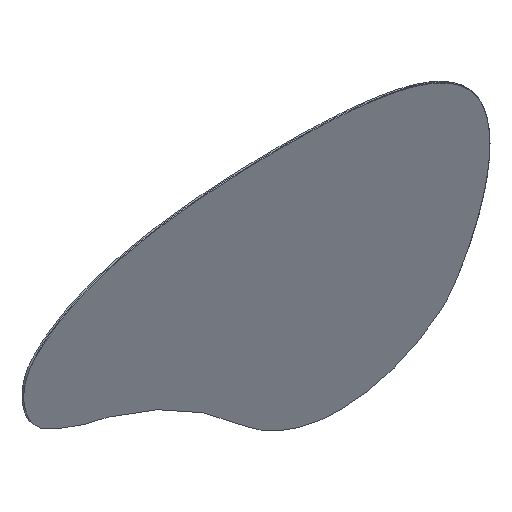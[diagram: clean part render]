
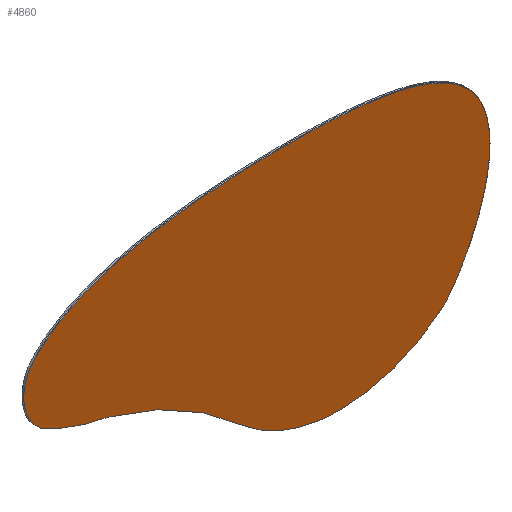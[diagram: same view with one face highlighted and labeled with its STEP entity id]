
A CAD part, isometric view. The second image highlights one B-rep face of the part: STEP entity #4860.
In plain terms, the highlighted planar face has unit normal (0, -1, 0).
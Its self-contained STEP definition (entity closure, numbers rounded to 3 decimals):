
#63=PLANE('',#5225);
#1103=ORIENTED_EDGE('',*,*,#2533,.T.);
#1104=ORIENTED_EDGE('',*,*,#2534,.T.);
#1105=ORIENTED_EDGE('',*,*,#2457,.F.);
#1106=ORIENTED_EDGE('',*,*,#2454,.F.);
#1107=ORIENTED_EDGE('',*,*,#2451,.F.);
#1108=ORIENTED_EDGE('',*,*,#2447,.F.);
#1109=ORIENTED_EDGE('',*,*,#2531,.F.);
#1110=ORIENTED_EDGE('',*,*,#2528,.F.);
#1111=ORIENTED_EDGE('',*,*,#2525,.F.);
#1112=ORIENTED_EDGE('',*,*,#2535,.T.);
#1113=ORIENTED_EDGE('',*,*,#2536,.T.);
#1114=ORIENTED_EDGE('',*,*,#2537,.T.);
#1115=ORIENTED_EDGE('',*,*,#2538,.T.);
#1116=ORIENTED_EDGE('',*,*,#2539,.T.);
#1117=ORIENTED_EDGE('',*,*,#2540,.T.);
#1118=ORIENTED_EDGE('',*,*,#2541,.T.);
#1119=ORIENTED_EDGE('',*,*,#2542,.T.);
#1120=ORIENTED_EDGE('',*,*,#2543,.T.);
#1121=ORIENTED_EDGE('',*,*,#2544,.T.);
#1122=ORIENTED_EDGE('',*,*,#2545,.T.);
#1123=ORIENTED_EDGE('',*,*,#2546,.T.);
#1124=ORIENTED_EDGE('',*,*,#2547,.T.);
#1125=ORIENTED_EDGE('',*,*,#2548,.T.);
#1126=ORIENTED_EDGE('',*,*,#2549,.T.);
#1127=ORIENTED_EDGE('',*,*,#2550,.T.);
#1128=ORIENTED_EDGE('',*,*,#2551,.T.);
#1129=ORIENTED_EDGE('',*,*,#2552,.T.);
#2447=EDGE_CURVE('',#3190,#3191,#3679,.T.);
#2451=EDGE_CURVE('',#3191,#3194,#3681,.T.);
#2454=EDGE_CURVE('',#3194,#3196,#3683,.T.);
#2457=EDGE_CURVE('',#3196,#3198,#3685,.T.);
#2525=EDGE_CURVE('',#3243,#3244,#3728,.T.);
#2528=EDGE_CURVE('',#3244,#3246,#3730,.T.);
#2531=EDGE_CURVE('',#3246,#3190,#3732,.T.);
#2533=EDGE_CURVE('',#3248,#3249,#3734,.F.);
#2534=EDGE_CURVE('',#3249,#3198,#3735,.F.);
#2535=EDGE_CURVE('',#3243,#3250,#3736,.F.);
#2536=EDGE_CURVE('',#3250,#3251,#3737,.F.);
#2537=EDGE_CURVE('',#3251,#3252,#3738,.F.);
#2538=EDGE_CURVE('',#3252,#3253,#3739,.F.);
#2539=EDGE_CURVE('',#3253,#3254,#3740,.F.);
#2540=EDGE_CURVE('',#3254,#3255,#3741,.F.);
#2541=EDGE_CURVE('',#3255,#3256,#3742,.F.);
#2542=EDGE_CURVE('',#3256,#3257,#3743,.F.);
#2543=EDGE_CURVE('',#3257,#3258,#3744,.F.);
#2544=EDGE_CURVE('',#3258,#3259,#3745,.F.);
#2545=EDGE_CURVE('',#3259,#3260,#3746,.F.);
#2546=EDGE_CURVE('',#3260,#3261,#3747,.F.);
#2547=EDGE_CURVE('',#3261,#3262,#3748,.F.);
#2548=EDGE_CURVE('',#3262,#3263,#3749,.F.);
#2549=EDGE_CURVE('',#3263,#3264,#3750,.F.);
#2550=EDGE_CURVE('',#3264,#3265,#3751,.F.);
#2551=EDGE_CURVE('',#3265,#3266,#3752,.F.);
#2552=EDGE_CURVE('',#3266,#3248,#3753,.F.);
#3190=VERTEX_POINT('',#7360);
#3191=VERTEX_POINT('',#7361);
#3194=VERTEX_POINT('',#7369);
#3196=VERTEX_POINT('',#7375);
#3198=VERTEX_POINT('',#7381);
#3243=VERTEX_POINT('',#7570);
#3244=VERTEX_POINT('',#7572);
#3246=VERTEX_POINT('',#7578);
#3248=VERTEX_POINT('',#7588);
#3249=VERTEX_POINT('',#7589);
#3250=VERTEX_POINT('',#7592);
#3251=VERTEX_POINT('',#7594);
#3252=VERTEX_POINT('',#7596);
#3253=VERTEX_POINT('',#7598);
#3254=VERTEX_POINT('',#7600);
#3255=VERTEX_POINT('',#7602);
#3256=VERTEX_POINT('',#7604);
#3257=VERTEX_POINT('',#7606);
#3258=VERTEX_POINT('',#7608);
#3259=VERTEX_POINT('',#7610);
#3260=VERTEX_POINT('',#7612);
#3261=VERTEX_POINT('',#7614);
#3262=VERTEX_POINT('',#7616);
#3263=VERTEX_POINT('',#7618);
#3264=VERTEX_POINT('',#7620);
#3265=VERTEX_POINT('',#7622);
#3266=VERTEX_POINT('',#7624);
#3679=CIRCLE('',#5142,314.798);
#3681=CIRCLE('',#5145,734.433);
#3683=CIRCLE('',#5148,433.192);
#3685=CIRCLE('',#5151,95.768);
#3728=CIRCLE('',#5216,609.784);
#3730=CIRCLE('',#5219,123.269);
#3732=CIRCLE('',#5222,335.672);
#3734=CIRCLE('',#5226,303.639);
#3735=CIRCLE('',#5227,247.83);
#3736=CIRCLE('',#5228,487.862);
#3737=CIRCLE('',#5229,388.642);
#3738=CIRCLE('',#5230,248.601);
#3739=CIRCLE('',#5231,198.495);
#3740=CIRCLE('',#5232,151.883);
#3741=CIRCLE('',#5233,164.717);
#3742=CIRCLE('',#5234,274.499);
#3743=CIRCLE('',#5235,413.119);
#3744=CIRCLE('',#5236,933.834);
#3745=CIRCLE('',#5237,1139.933);
#3746=CIRCLE('',#5238,1891.204);
#3747=CIRCLE('',#5239,2130.214);
#3748=CIRCLE('',#5240,2279.565);
#3749=CIRCLE('',#5241,2128.82);
#3750=CIRCLE('',#5242,1327.786);
#3751=CIRCLE('',#5243,1032.963);
#3752=CIRCLE('',#5244,594.762);
#3753=CIRCLE('',#5245,456.66);
#4046=EDGE_LOOP('',(#1103,#1104,#1105,#1106,#1107,#1108,#1109,#1110,#1111,
#1112,#1113,#1114,#1115,#1116,#1117,#1118,#1119,#1120,#1121,#1122,#1123,
#1124,#1125,#1126,#1127,#1128,#1129));
#4378=FACE_BOUND('',#4046,.T.);
#4860=ADVANCED_FACE('',(#4378),#63,.F.);
#5142=AXIS2_PLACEMENT_3D('',#7359,#5749,#5750);
#5145=AXIS2_PLACEMENT_3D('',#7368,#5757,#5758);
#5148=AXIS2_PLACEMENT_3D('',#7374,#5764,#5765);
#5151=AXIS2_PLACEMENT_3D('',#7380,#5771,#5772);
#5216=AXIS2_PLACEMENT_3D('',#7571,#5923,#5924);
#5219=AXIS2_PLACEMENT_3D('',#7577,#5930,#5931);
#5222=AXIS2_PLACEMENT_3D('',#7583,#5937,#5938);
#5225=AXIS2_PLACEMENT_3D('',#7586,#5943,#5944);
#5226=AXIS2_PLACEMENT_3D('',#7587,#5945,#5946);
#5227=AXIS2_PLACEMENT_3D('',#7590,#5947,#5948);
#5228=AXIS2_PLACEMENT_3D('',#7591,#5949,#5950);
#5229=AXIS2_PLACEMENT_3D('',#7593,#5951,#5952);
#5230=AXIS2_PLACEMENT_3D('',#7595,#5953,#5954);
#5231=AXIS2_PLACEMENT_3D('',#7597,#5955,#5956);
#5232=AXIS2_PLACEMENT_3D('',#7599,#5957,#5958);
#5233=AXIS2_PLACEMENT_3D('',#7601,#5959,#5960);
#5234=AXIS2_PLACEMENT_3D('',#7603,#5961,#5962);
#5235=AXIS2_PLACEMENT_3D('',#7605,#5963,#5964);
#5236=AXIS2_PLACEMENT_3D('',#7607,#5965,#5966);
#5237=AXIS2_PLACEMENT_3D('',#7609,#5967,#5968);
#5238=AXIS2_PLACEMENT_3D('',#7611,#5969,#5970);
#5239=AXIS2_PLACEMENT_3D('',#7613,#5971,#5972);
#5240=AXIS2_PLACEMENT_3D('',#7615,#5973,#5974);
#5241=AXIS2_PLACEMENT_3D('',#7617,#5975,#5976);
#5242=AXIS2_PLACEMENT_3D('',#7619,#5977,#5978);
#5243=AXIS2_PLACEMENT_3D('',#7621,#5979,#5980);
#5244=AXIS2_PLACEMENT_3D('',#7623,#5981,#5982);
#5245=AXIS2_PLACEMENT_3D('',#7625,#5983,#5984);
#5749=DIRECTION('',(0.,1.,0.));
#5750=DIRECTION('',(1.,0.,0.));
#5757=DIRECTION('',(0.,-1.,0.));
#5758=DIRECTION('',(1.,0.,0.));
#5764=DIRECTION('',(0.,1.,0.));
#5765=DIRECTION('',(1.,0.,0.));
#5771=DIRECTION('',(0.,1.,0.));
#5772=DIRECTION('',(1.,0.,0.));
#5923=DIRECTION('',(0.,1.,0.));
#5924=DIRECTION('',(1.,0.,0.));
#5930=DIRECTION('',(0.,1.,0.));
#5931=DIRECTION('',(1.,0.,0.));
#5937=DIRECTION('',(0.,1.,0.));
#5938=DIRECTION('',(1.,0.,0.));
#5943=DIRECTION('',(0.,1.,0.));
#5944=DIRECTION('',(0.,0.,1.));
#5945=DIRECTION('',(0.,1.,0.));
#5946=DIRECTION('',(0.,0.,1.));
#5947=DIRECTION('',(0.,1.,0.));
#5948=DIRECTION('',(0.,0.,1.));
#5949=DIRECTION('',(0.,1.,0.));
#5950=DIRECTION('',(0.,0.,1.));
#5951=DIRECTION('',(0.,1.,0.));
#5952=DIRECTION('',(0.,0.,1.));
#5953=DIRECTION('',(0.,1.,0.));
#5954=DIRECTION('',(0.,0.,1.));
#5955=DIRECTION('',(0.,1.,0.));
#5956=DIRECTION('',(0.,0.,1.));
#5957=DIRECTION('',(0.,1.,0.));
#5958=DIRECTION('',(0.,0.,1.));
#5959=DIRECTION('',(0.,1.,0.));
#5960=DIRECTION('',(0.,0.,1.));
#5961=DIRECTION('',(0.,1.,0.));
#5962=DIRECTION('',(0.,0.,1.));
#5963=DIRECTION('',(0.,1.,0.));
#5964=DIRECTION('',(0.,0.,1.));
#5965=DIRECTION('',(0.,1.,0.));
#5966=DIRECTION('',(0.,0.,1.));
#5967=DIRECTION('',(0.,1.,0.));
#5968=DIRECTION('',(0.,0.,1.));
#5969=DIRECTION('',(0.,1.,0.));
#5970=DIRECTION('',(0.,0.,1.));
#5971=DIRECTION('',(0.,1.,0.));
#5972=DIRECTION('',(0.,0.,1.));
#5973=DIRECTION('',(0.,1.,0.));
#5974=DIRECTION('',(0.,0.,1.));
#5975=DIRECTION('',(0.,1.,0.));
#5976=DIRECTION('',(0.,0.,1.));
#5977=DIRECTION('',(0.,1.,0.));
#5978=DIRECTION('',(0.,0.,1.));
#5979=DIRECTION('',(0.,1.,0.));
#5980=DIRECTION('',(0.,0.,1.));
#5981=DIRECTION('',(0.,1.,0.));
#5982=DIRECTION('',(0.,0.,1.));
#5983=DIRECTION('',(0.,1.,0.));
#5984=DIRECTION('',(0.,0.,1.));
#7359=CARTESIAN_POINT('',(533.178,0.,256.253));
#7360=CARTESIAN_POINT('',(537.565,0.,-58.514));
#7361=CARTESIAN_POINT('',(333.628,0.,12.784));
#7368=CARTESIAN_POINT('',(-161.905,0.,-529.285));
#7369=CARTESIAN_POINT('',(39.244,0.,177.065));
#7374=CARTESIAN_POINT('',(110.877,0.,604.293));
#7375=CARTESIAN_POINT('',(-106.664,0.,229.685));
#7380=CARTESIAN_POINT('',(-45.746,0.,303.581));
#7381=CARTESIAN_POINT('',(-128.601,0.,351.61));
#7570=CARTESIAN_POINT('',(789.669,0.,64.927));
#7571=CARTESIAN_POINT('',(275.317,0.,392.46));
#7572=CARTESIAN_POINT('',(775.645,0.,43.881));
#7577=CARTESIAN_POINT('',(674.503,0.,114.346));
#7578=CARTESIAN_POINT('',(753.669,0.,19.859));
#7583=CARTESIAN_POINT('',(538.093,0.,277.157));
#7586=CARTESIAN_POINT('',(185.637,0.,-136.516));
#7587=CARTESIAN_POINT('',(92.917,0.,146.681));
#7588=CARTESIAN_POINT('',(-40.639,0.,419.371));
#7589=CARTESIAN_POINT('',(-75.946,0.,399.034));
#7590=CARTESIAN_POINT('',(61.88,0.,193.064));
#7591=CARTESIAN_POINT('',(375.875,0.,323.353));
#7592=CARTESIAN_POINT('',(841.505,0.,177.756));
#7593=CARTESIAN_POINT('',(470.574,0.,293.742));
#7594=CARTESIAN_POINT('',(855.268,0.,238.489));
#7595=CARTESIAN_POINT('',(609.192,0.,273.832));
#7596=CARTESIAN_POINT('',(856.972,0.,294.019));
#7597=CARTESIAN_POINT('',(659.132,0.,277.9));
#7598=CARTESIAN_POINT('',(846.659,0.,342.971));
#7599=CARTESIAN_POINT('',(703.169,0.,293.181));
#7600=CARTESIAN_POINT('',(824.767,0.,384.188));
#7601=CARTESIAN_POINT('',(692.894,0.,285.491));
#7602=CARTESIAN_POINT('',(785.795,0.,421.509));
#7603=CARTESIAN_POINT('',(630.976,0.,194.836));
#7604=CARTESIAN_POINT('',(731.351,0.,450.325));
#7605=CARTESIAN_POINT('',(580.288,0.,65.815));
#7606=CARTESIAN_POINT('',(659.959,0.,471.179));
#7607=CARTESIAN_POINT('',(479.867,0.,-445.124));
#7608=CARTESIAN_POINT('',(569.359,0.,484.412));
#7609=CARTESIAN_POINT('',(460.115,0.,-650.275));
#7610=CARTESIAN_POINT('',(525.777,0.,487.766));
#7611=CARTESIAN_POINT('',(416.841,0.,-1400.298));
#7612=CARTESIAN_POINT('',(476.181,0.,489.974));
#7613=CARTESIAN_POINT('',(409.344,0.,-1639.191));
#7614=CARTESIAN_POINT('',(423.192,0.,490.978));
#7615=CARTESIAN_POINT('',(408.375,0.,-1788.538));
#7616=CARTESIAN_POINT('',(369.288,0.,490.691));
#7617=CARTESIAN_POINT('',(405.793,0.,-1637.816));
#7618=CARTESIAN_POINT('',(257.836,0.,485.856));
#7619=CARTESIAN_POINT('',(350.122,0.,-838.719));
#7620=CARTESIAN_POINT('',(159.335,0.,475.289));
#7621=CARTESIAN_POINT('',(307.761,0.,-546.955));
#7622=CARTESIAN_POINT('',(73.565,0.,459.109));
#7623=CARTESIAN_POINT('',(208.411,0.,-120.165));
#7624=CARTESIAN_POINT('',(0.876,0.,437.214));
#7625=CARTESIAN_POINT('',(160.222,0.,9.257));
